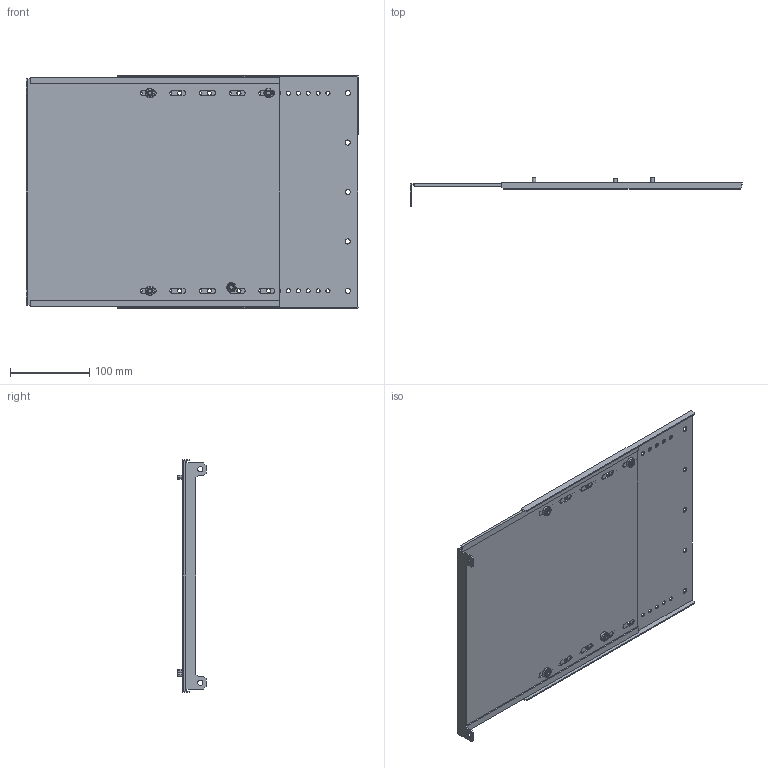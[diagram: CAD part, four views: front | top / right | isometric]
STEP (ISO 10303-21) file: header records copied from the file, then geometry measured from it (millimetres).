
FILE_DESCRIPTION (( 'STEP AP214' ), '1' );
FILE_NAME ('FO-00-SWVB-030-040 Ïåðåãîðîäêà ñåêöèîíèðîâàíèÿ âåðòèêàëüíàÿ äëÿ âåðòèêàëüíîãî øèííîãî îòñåêà 300õ400 ìì â øêàô ãëóáèíîé 800 ìì.STEP', '2025-08-06T13:37:05', ( '' ), ( '' ), 'SwSTEP 2.0', 'SolidWorks 2023', '' );
FILE_SCHEMA (( 'AUTOMOTIVE_DESIGN' ));
Length unit declared in the file: millimetre
Products named in the file (4): Перегородка секционирования ап 300х400; FO-00-SWVB-030-040 Перегородка секционирования вертикальная для вертикального шинного отсека 300х400 мм в шкаф глубиной 800 мм; Болты М5х300; Перегородка секционирования 300х400
Assembly tree (4 placements, depth 2):
  FO-00-SWVB-030-040 Перегородка секционирования вертикальная для вертикального шинного отсека 300х400 мм в шкаф глубиной 800 мм
    Перегородка секционирования ап 300х400
    Перегородка секционирования 300х400
    Болты М5х300  x2
Bounding box: 419.75 x 35.7 x 294.5 mm (x, y, z)
Volume: 293740.9 mm3; surface area: 386830.2 mm2
Topology: 6 solids, 6 shells, 302 faces, 822 edges, 540 vertices
Faces by surface type: cylinder 190, plane 88, torus 16, cone 8
Entity records: 8362 total; most frequent: DIRECTION 1510, CARTESIAN_POINT 1387, ORIENTED_EDGE 1368, EDGE_CURVE 684, AXIS2_PLACEMENT_3D 575, VERTEX_POINT 452, EDGE_LOOP 362, VECTOR 360
